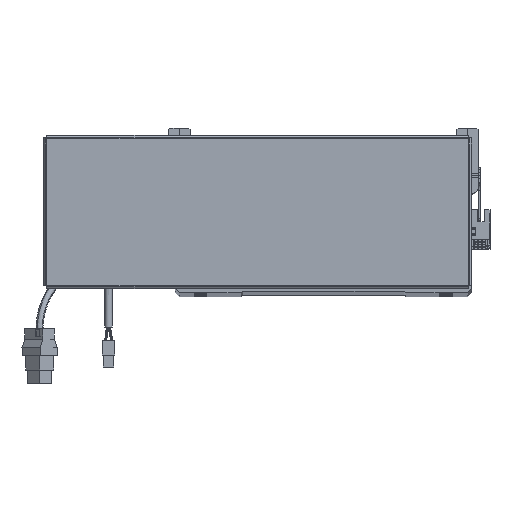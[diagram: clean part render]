
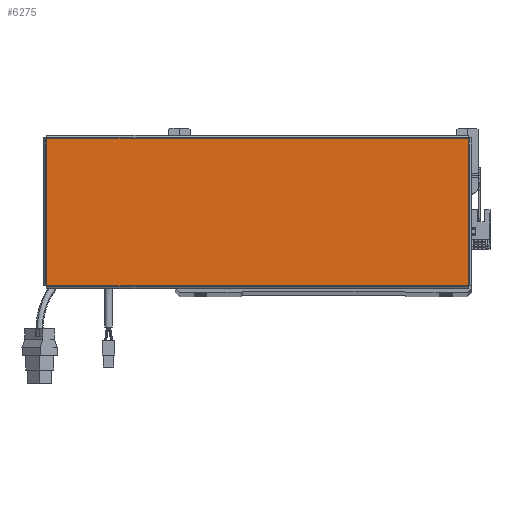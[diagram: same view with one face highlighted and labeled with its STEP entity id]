
A CAD part, top view. The second image highlights one B-rep face of the part: STEP entity #6275.
In plain terms, the highlighted planar face has unit normal (0, 0, 1).
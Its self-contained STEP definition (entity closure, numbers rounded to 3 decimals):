
#1319 = ORIENTED_EDGE ( 'NONE', *, *, #3646, .T. ) ;
#2241 = ORIENTED_EDGE ( 'NONE', *, *, #42483, .T. ) ;
#2553 = LINE ( 'NONE', #10850, #45958 ) ;
#3646 = EDGE_CURVE ( 'NONE', #62781, #60631, #65320, .T. ) ;
#6275 = ADVANCED_FACE ( 'NONE', ( #49914 ), #31298, .T. ) ;
#6473 = EDGE_LOOP ( 'NONE', ( #1319, #2241, #47277, #62750 ) ) ;
#8210 = CARTESIAN_POINT ( 'NONE',  ( -156.513, 54.793, 0. ) ) ;
#10850 = CARTESIAN_POINT ( 'NONE',  ( 156.513, -54.793, 0. ) ) ;
#11927 = DIRECTION ( 'NONE',  ( 1., 0., 0. ) ) ;
#14160 = CARTESIAN_POINT ( 'NONE',  ( -156.513, -54.763, 0. ) ) ;
#16604 = EDGE_CURVE ( 'NONE', #60685, #25374, #35929, .T. ) ;
#20162 = DIRECTION ( 'NONE',  ( 0., 0., 1. ) ) ;
#25134 = CARTESIAN_POINT ( 'NONE',  ( 0., 0., 0. ) ) ;
#25374 = VERTEX_POINT ( 'NONE', #33410 ) ;
#27991 = EDGE_CURVE ( 'NONE', #25374, #62781, #56602, .T. ) ;
#31298 = PLANE ( 'NONE',  #39049 ) ;
#33410 = CARTESIAN_POINT ( 'NONE',  ( -156.513, 54.763, 0. ) ) ;
#34429 = CARTESIAN_POINT ( 'NONE',  ( 156.543, 54.763, 0. ) ) ;
#35929 = LINE ( 'NONE', #34429, #41260 ) ;
#39049 = AXIS2_PLACEMENT_3D ( 'NONE', #25134, #20162, #65559 ) ;
#40166 = CARTESIAN_POINT ( 'NONE',  ( -156.543, -54.763, 0. ) ) ;
#41260 = VECTOR ( 'NONE', #56956, 1000. ) ;
#42483 = EDGE_CURVE ( 'NONE', #60631, #60685, #2553, .T. ) ;
#43983 = VECTOR ( 'NONE', #11927, 1000. ) ;
#44282 = DIRECTION ( 'NONE',  ( 0., 1., 0. ) ) ;
#44497 = CARTESIAN_POINT ( 'NONE',  ( 156.513, -54.763, 0. ) ) ;
#45958 = VECTOR ( 'NONE', #44282, 1000. ) ;
#47277 = ORIENTED_EDGE ( 'NONE', *, *, #16604, .T. ) ;
#47304 = DIRECTION ( 'NONE',  ( 0., -1., 0. ) ) ;
#49914 = FACE_OUTER_BOUND ( 'NONE', #6473, .T. ) ;
#51372 = CARTESIAN_POINT ( 'NONE',  ( 156.513, 54.763, 0. ) ) ;
#56602 = LINE ( 'NONE', #8210, #66396 ) ;
#56956 = DIRECTION ( 'NONE',  ( -1., 0., 0. ) ) ;
#60631 = VERTEX_POINT ( 'NONE', #44497 ) ;
#60685 = VERTEX_POINT ( 'NONE', #51372 ) ;
#62750 = ORIENTED_EDGE ( 'NONE', *, *, #27991, .T. ) ;
#62781 = VERTEX_POINT ( 'NONE', #14160 ) ;
#65320 = LINE ( 'NONE', #40166, #43983 ) ;
#65559 = DIRECTION ( 'NONE',  ( 1., 0., 0. ) ) ;
#66396 = VECTOR ( 'NONE', #47304, 1000. ) ;
